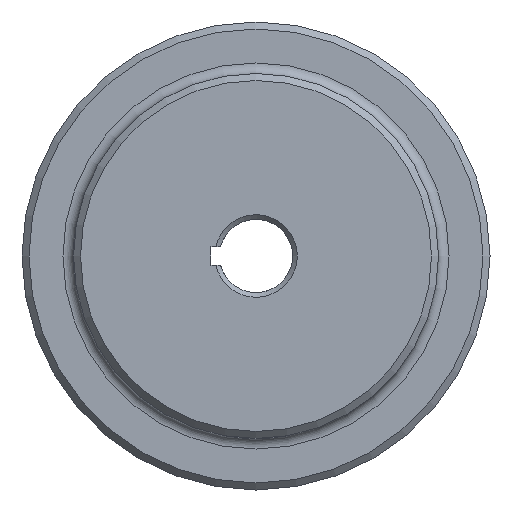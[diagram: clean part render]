
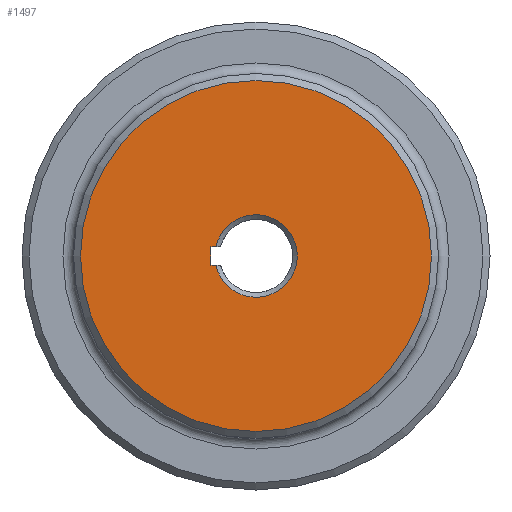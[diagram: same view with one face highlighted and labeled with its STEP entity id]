
A CAD part, left-side view. The second image highlights one B-rep face of the part: STEP entity #1497.
In plain terms, the highlighted planar face has unit normal (-1, 0, 0).
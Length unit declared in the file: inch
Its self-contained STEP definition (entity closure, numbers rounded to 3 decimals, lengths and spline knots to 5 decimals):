
#31 = DIRECTION ( 'NONE',  ( 1., 0., 0. ) ) ;
#35 = LINE ( 'NONE', #1375, #153 ) ;
#46 = ORIENTED_EDGE ( 'NONE', *, *, #814, .F. ) ;
#75 = ORIENTED_EDGE ( 'NONE', *, *, #937, .T. ) ;
#145 = AXIS2_PLACEMENT_3D ( 'NONE', #794, #396, #1418 ) ;
#153 = VECTOR ( 'NONE', #1071, 39.37008 ) ;
#171 = FACE_OUTER_BOUND ( 'NONE', #1997, .T. ) ;
#240 = FACE_BOUND ( 'NONE', #1534, .T. ) ;
#278 = CIRCLE ( 'NONE', #145, 0.35265 ) ;
#281 = ORIENTED_EDGE ( 'NONE', *, *, #2061, .F. ) ;
#321 = AXIS2_PLACEMENT_3D ( 'NONE', #1929, #1470, #1749 ) ;
#331 = ORIENTED_EDGE ( 'NONE', *, *, #1146, .T. ) ;
#396 = DIRECTION ( 'NONE',  ( 1., 0., 0. ) ) ;
#435 = VERTEX_POINT ( 'NONE', #659 ) ;
#556 = VERTEX_POINT ( 'NONE', #1175 ) ;
#587 = EDGE_CURVE ( 'NONE', #556, #609, #35, .T. ) ;
#609 = VERTEX_POINT ( 'NONE', #823 ) ;
#659 = CARTESIAN_POINT ( 'NONE',  ( 0., 0.34392, 0.078 ) ) ;
#662 = VERTEX_POINT ( 'NONE', #1612 ) ;
#709 = DIRECTION ( 'NONE',  ( 0., 0., -1. ) ) ;
#794 = CARTESIAN_POINT ( 'NONE',  ( 0., 0., 0. ) ) ;
#814 = EDGE_CURVE ( 'NONE', #1279, #556, #1303, .T. ) ;
#823 = CARTESIAN_POINT ( 'NONE',  ( 0., 0.34392, -0.078 ) ) ;
#933 = DIRECTION ( 'NONE',  ( 0., 1., 0. ) ) ;
#937 = EDGE_CURVE ( 'NONE', #435, #609, #278, .T. ) ;
#941 = AXIS2_PLACEMENT_3D ( 'NONE', #1486, #31, #2093 ) ;
#1071 = DIRECTION ( 'NONE',  ( 0., -1., 0. ) ) ;
#1146 = EDGE_CURVE ( 'NONE', #662, #662, #1517, .T. ) ;
#1175 = CARTESIAN_POINT ( 'NONE',  ( 0., 0.38635, -0.078 ) ) ;
#1240 = CARTESIAN_POINT ( 'NONE',  ( 0., 0.38635, 0.078 ) ) ;
#1254 = PLANE ( 'NONE',  #941 ) ;
#1279 = VERTEX_POINT ( 'NONE', #1240 ) ;
#1303 = LINE ( 'NONE', #1914, #2194 ) ;
#1374 = ORIENTED_EDGE ( 'NONE', *, *, #587, .F. ) ;
#1375 = CARTESIAN_POINT ( 'NONE',  ( 0., 0., -0.078 ) ) ;
#1418 = DIRECTION ( 'NONE',  ( 0., 0., -1. ) ) ;
#1470 = DIRECTION ( 'NONE',  ( -1., 0., 0. ) ) ;
#1486 = CARTESIAN_POINT ( 'NONE',  ( 0., 0., 0. ) ) ;
#1497 = ADVANCED_FACE ( 'NONE', ( #171, #240 ), #1254, .F. ) ;
#1517 = CIRCLE ( 'NONE', #321, 1.5 ) ;
#1534 = EDGE_LOOP ( 'NONE', ( #281, #75, #1374, #46 ) ) ;
#1612 = CARTESIAN_POINT ( 'NONE',  ( 0., 0., -1.5 ) ) ;
#1749 = DIRECTION ( 'NONE',  ( 0., 0., -1. ) ) ;
#1914 = CARTESIAN_POINT ( 'NONE',  ( 0., 0.38635, -0.078 ) ) ;
#1929 = CARTESIAN_POINT ( 'NONE',  ( 0., 0., 0. ) ) ;
#1934 = CARTESIAN_POINT ( 'NONE',  ( 0., 0., 0.078 ) ) ;
#1974 = LINE ( 'NONE', #1934, #1989 ) ;
#1989 = VECTOR ( 'NONE', #933, 39.37008 ) ;
#1997 = EDGE_LOOP ( 'NONE', ( #331 ) ) ;
#2061 = EDGE_CURVE ( 'NONE', #435, #1279, #1974, .T. ) ;
#2093 = DIRECTION ( 'NONE',  ( 0., 0., -1. ) ) ;
#2194 = VECTOR ( 'NONE', #709, 39.37008 ) ;
